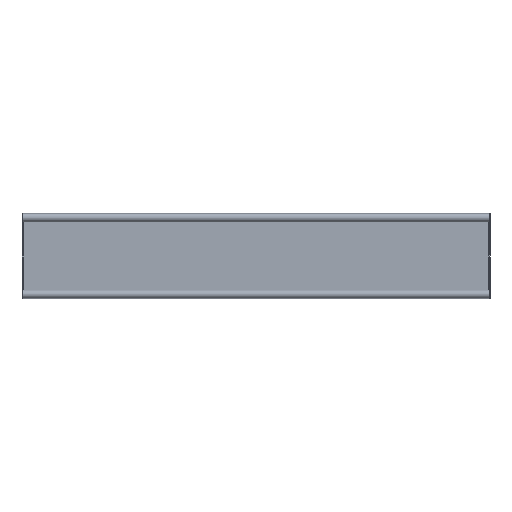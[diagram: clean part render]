
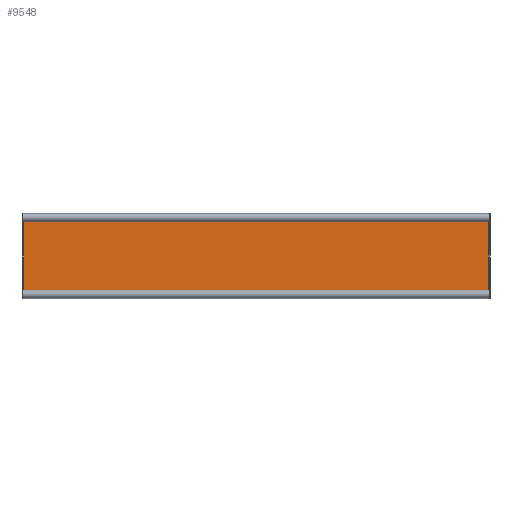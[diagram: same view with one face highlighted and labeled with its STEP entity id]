
A CAD part, front view. The second image highlights one B-rep face of the part: STEP entity #9548.
In plain terms, the highlighted planar face has unit normal (0, -1, 0).
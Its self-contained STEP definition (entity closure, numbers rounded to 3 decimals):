
#56 = VERTEX_POINT ( 'NONE', #2396 ) ;
#269 = CIRCLE ( 'NONE', #6847, 5. ) ;
#304 = CARTESIAN_POINT ( 'NONE',  ( -549., -2., 99. ) ) ;
#314 = ORIENTED_EDGE ( 'NONE', *, *, #5499, .T. ) ;
#316 = AXIS2_PLACEMENT_3D ( 'NONE', #5033, #8087, #1220 ) ;
#425 = ORIENTED_EDGE ( 'NONE', *, *, #4721, .F. ) ;
#435 = CARTESIAN_POINT ( 'NONE',  ( -549., -2., -99. ) ) ;
#443 = CIRCLE ( 'NONE', #6044, 5. ) ;
#468 = LINE ( 'NONE', #6585, #5555 ) ;
#477 = VERTEX_POINT ( 'NONE', #6438 ) ;
#567 = DIRECTION ( 'NONE',  ( 0., 0., 1. ) ) ;
#728 = DIRECTION ( 'NONE',  ( 0., 0., 1. ) ) ;
#752 = VECTOR ( 'NONE', #728, 1000. ) ;
#873 = AXIS2_PLACEMENT_3D ( 'NONE', #304, #9423, #4224 ) ;
#926 = ORIENTED_EDGE ( 'NONE', *, *, #9059, .F. ) ;
#965 = EDGE_LOOP ( 'NONE', ( #926, #314, #9480, #9629, #2560, #425, #9443, #6862 ) ) ;
#1138 = DIRECTION ( 'NONE',  ( 0., 0., 1. ) ) ;
#1144 = AXIS2_PLACEMENT_3D ( 'NONE', #435, #9743, #2716 ) ;
#1220 = DIRECTION ( 'NONE',  ( 0., 0., 1. ) ) ;
#1248 = VERTEX_POINT ( 'NONE', #4804 ) ;
#1365 = CIRCLE ( 'NONE', #873, 5. ) ;
#1516 = EDGE_CURVE ( 'NONE', #6397, #56, #1365, .T. ) ;
#1677 = VERTEX_POINT ( 'NONE', #3891 ) ;
#1904 = LINE ( 'NONE', #8004, #8111 ) ;
#2043 = EDGE_CURVE ( 'NONE', #1248, #6033, #6651, .T. ) ;
#2056 = CARTESIAN_POINT ( 'NONE',  ( -549., -2., -96. ) ) ;
#2181 = CARTESIAN_POINT ( 'NONE',  ( 549., -2., -99. ) ) ;
#2297 = LINE ( 'NONE', #7175, #752 ) ;
#2336 = DIRECTION ( 'NONE',  ( 0., -1., 0. ) ) ;
#2396 = CARTESIAN_POINT ( 'NONE',  ( -545., -2., 96. ) ) ;
#2449 = CARTESIAN_POINT ( 'NONE',  ( 546., -2., -95. ) ) ;
#2457 = CARTESIAN_POINT ( 'NONE',  ( 545., -2., -96. ) ) ;
#2560 = ORIENTED_EDGE ( 'NONE', *, *, #1516, .F. ) ;
#2716 = DIRECTION ( 'NONE',  ( 0., 0., 1. ) ) ;
#2844 = CARTESIAN_POINT ( 'NONE',  ( -546., -2., 95. ) ) ;
#3695 = DIRECTION ( 'NONE',  ( 0., 0., 1. ) ) ;
#3724 = VERTEX_POINT ( 'NONE', #2449 ) ;
#3891 = CARTESIAN_POINT ( 'NONE',  ( 546., -2., 95. ) ) ;
#4224 = DIRECTION ( 'NONE',  ( 0., 0., 1. ) ) ;
#4721 = EDGE_CURVE ( 'NONE', #477, #6397, #2297, .T. ) ;
#4804 = CARTESIAN_POINT ( 'NONE',  ( -545., -2., -96. ) ) ;
#4990 = CARTESIAN_POINT ( 'NONE',  ( -549., -2., -99. ) ) ;
#5030 = VERTEX_POINT ( 'NONE', #7856 ) ;
#5033 = CARTESIAN_POINT ( 'NONE',  ( 549., -2., 99. ) ) ;
#5098 = PLANE ( 'NONE',  #1144 ) ;
#5456 = CIRCLE ( 'NONE', #316, 5. ) ;
#5499 = EDGE_CURVE ( 'NONE', #3724, #1677, #1904, .T. ) ;
#5555 = VECTOR ( 'NONE', #9634, 1000. ) ;
#6033 = VERTEX_POINT ( 'NONE', #2457 ) ;
#6044 = AXIS2_PLACEMENT_3D ( 'NONE', #4990, #9531, #567 ) ;
#6397 = VERTEX_POINT ( 'NONE', #2844 ) ;
#6438 = CARTESIAN_POINT ( 'NONE',  ( -546., -2., -95. ) ) ;
#6585 = CARTESIAN_POINT ( 'NONE',  ( -549., -2., 96. ) ) ;
#6599 = FACE_OUTER_BOUND ( 'NONE', #965, .T. ) ;
#6651 = LINE ( 'NONE', #2056, #9211 ) ;
#6701 = DIRECTION ( 'NONE',  ( 1., 0., 0. ) ) ;
#6847 = AXIS2_PLACEMENT_3D ( 'NONE', #2181, #2336, #3695 ) ;
#6862 = ORIENTED_EDGE ( 'NONE', *, *, #2043, .T. ) ;
#7019 = EDGE_CURVE ( 'NONE', #56, #5030, #468, .T. ) ;
#7175 = CARTESIAN_POINT ( 'NONE',  ( -546., -2., -99. ) ) ;
#7856 = CARTESIAN_POINT ( 'NONE',  ( 545., -2., 96. ) ) ;
#8004 = CARTESIAN_POINT ( 'NONE',  ( 546., -2., -99. ) ) ;
#8087 = DIRECTION ( 'NONE',  ( 0., -1., 0. ) ) ;
#8111 = VECTOR ( 'NONE', #1138, 1000. ) ;
#8858 = EDGE_CURVE ( 'NONE', #1248, #477, #443, .T. ) ;
#9059 = EDGE_CURVE ( 'NONE', #3724, #6033, #269, .T. ) ;
#9211 = VECTOR ( 'NONE', #6701, 1000. ) ;
#9423 = DIRECTION ( 'NONE',  ( 0., -1., 0. ) ) ;
#9443 = ORIENTED_EDGE ( 'NONE', *, *, #8858, .F. ) ;
#9480 = ORIENTED_EDGE ( 'NONE', *, *, #9806, .F. ) ;
#9531 = DIRECTION ( 'NONE',  ( 0., -1., 0. ) ) ;
#9548 = ADVANCED_FACE ( 'NONE', ( #6599 ), #5098, .F. ) ;
#9629 = ORIENTED_EDGE ( 'NONE', *, *, #7019, .F. ) ;
#9634 = DIRECTION ( 'NONE',  ( 1., 0., 0. ) ) ;
#9743 = DIRECTION ( 'NONE',  ( 0., 1., 0. ) ) ;
#9806 = EDGE_CURVE ( 'NONE', #5030, #1677, #5456, .T. ) ;
